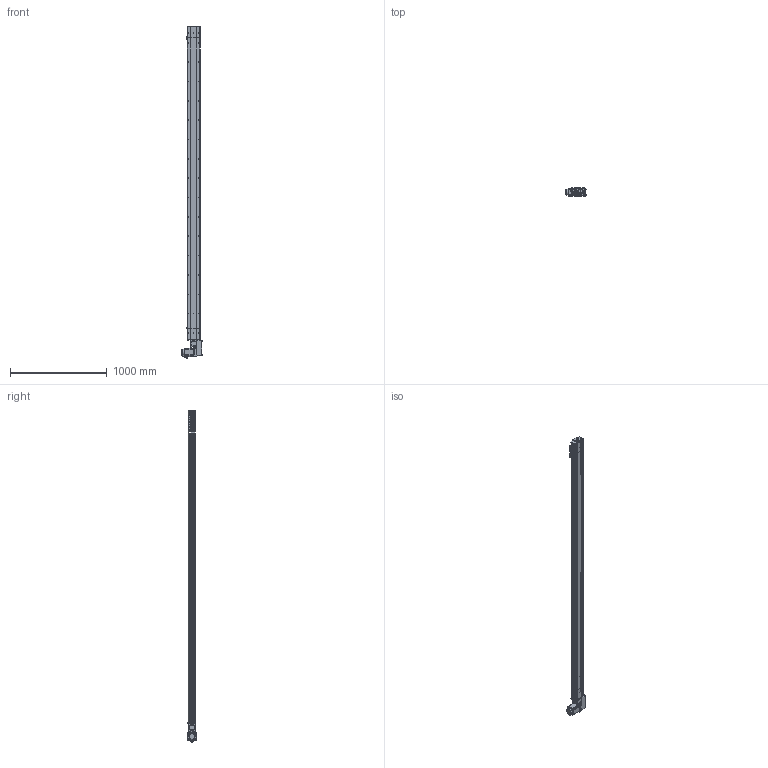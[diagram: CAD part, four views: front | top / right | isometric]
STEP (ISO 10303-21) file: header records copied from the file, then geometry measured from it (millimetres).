
FILE_DESCRIPTION (( 'STEP AP214' ), '1' );
FILE_NAME ('D14 TBH LH S3000.STEP', '2010-06-29T14:46:14', ( 'Conseil Régional Haute-Normandie' ), ( 'Conseil Régional Haute-Normandie' ), 'SwSTEP 2.0', 'SolidWorks 2010', '' );
FILE_SCHEMA (( 'AUTOMOTIVE_DESIGN' ));
Length unit declared in the file: millimetre
Products named in the file (39): Arbre+rail head D14; Cache_Default; poulie head_Default; corps 90BLDC100A-640; couvercle D14 head_Default; Cache arbre_Default; avant 90BLDC100A-640; couroie 2_Default; Moteur motionking 90BLDC100A-640; Plaque racord D14_Default; Conecteur_Default; Conecteur2_Default; codeur 90BLDC100-640; Cvis M5 L70_Default; vis M5 L5_Default; Vis M5 L16-2_Default; renvoi LH_Default; vis M5 L12_Default; chariot D14B_Default; Chariot D14; guide D14; corp head D14_Default; D14 TB H LH_Default; D14 couroie L3000_Default; couvercle D14_Default; Rail + couroie D14 Course 3000 ; plaque de  bout tail D14_Default; vis M5 L8 90°_Default; D14 TBH LH S3000; plaque de  bout head D14 LH_Default; Tail D14B_Default; vis M5 L16_Default; corpl tail D14_Default; tete d''axe haut D14; corpl 3000_Default; couvercle D14 course L3000_Default; Couroie_Default; poulie tail_Default; Arbre+rail tail D14
Assembly tree (68 placements, depth 4):
  D14 TBH LH S3000
    chariot D14B_Default
      guide D14  x2
      vis M5 L12_Default  x4
      Chariot D14
    Tail D14B_Default
      vis M5 L16_Default  x2
      vis M5 L8 90°_Default  x2
      poulie tail_Default
      plaque de  bout tail D14_Default
      vis M5 L12_Default  x4
      couvercle D14_Default
      Couroie_Default
      tete d''axe haut D14
      Arbre+rail tail D14
      corpl tail D14_Default
    D14 couroie L3000_Default
      corpl 3000_Default
      Rail + couroie D14 Course 3000 
      couvercle D14 course L3000_Default
    D14 TB H LH_Default
      Moteur motionking 90BLDC100A-640
        Conecteur_Default
        avant 90BLDC100A-640
        Conecteur2_Default
        codeur 90BLDC100-640
        corps 90BLDC100A-640
      vis M5 L12_Default  x12
      Arbre+rail head D14
      poulie head_Default
      corp head D14_Default
      renvoi LH_Default
      Cache_Default  x2
      Vis M5 L16-2_Default  x4
      Cache arbre_Default
      plaque de  bout head D14 LH_Default
      vis M5 L5_Default  x2
      Cvis M5 L70_Default  x4
      couroie 2_Default
      Plaque racord D14_Default
      couvercle D14 head_Default
Bounding box: 207.2 x 85.9 x 3432.45 mm (x, y, z)
Volume: 12160834.3 mm3; surface area: 4458688.5 mm2
Topology: 92 solids, 92 shells, 2773 faces, 6755 edges, 4362 vertices
Faces by surface type: plane 1625, cylinder 835, bspline 136, torus 89, cone 84, sphere 4
Entity records: 83384 total; most frequent: CARTESIAN_POINT 24229, ORIENTED_EDGE 10370, DIRECTION 10324, EDGE_CURVE 5185, AXIS2_PLACEMENT_3D 3471, VERTEX_POINT 3412, VECTOR 3382, LINE 3382
